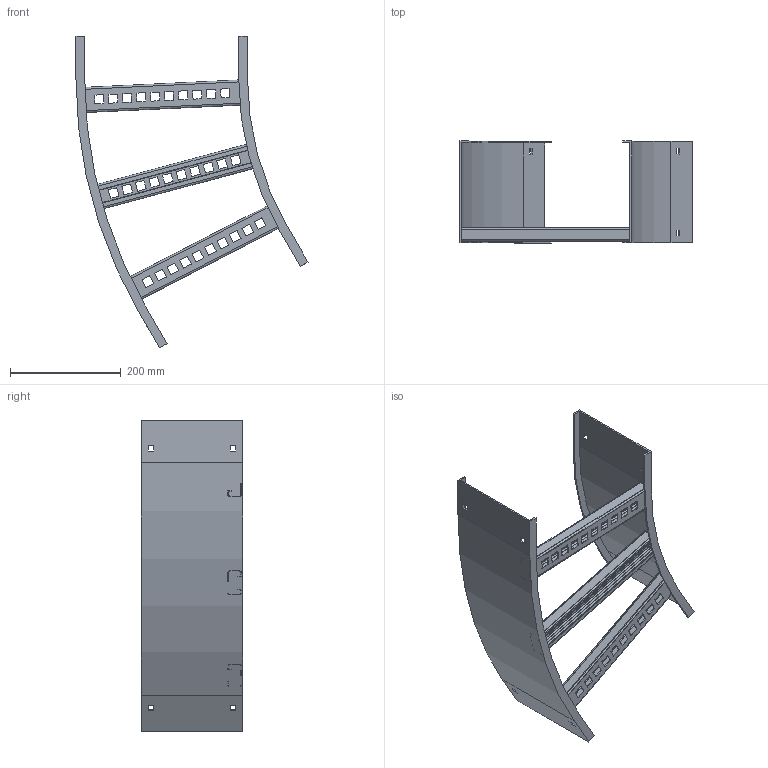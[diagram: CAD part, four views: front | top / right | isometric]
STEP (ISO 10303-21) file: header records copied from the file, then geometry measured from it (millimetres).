
FILE_DESCRIPTION((''),'2;1');
FILE_NAME('AUF712VHB3024_ASM','2010-01-28T',('erouzier'),(''),'PRO/ENGINEER BY PARAMETRIC TECHNOLOGY CORPORATION, 2008510','PRO/ENGINEER BY PARAMETRIC TECHNOLOGY CORPORATION, 2008510','');
FILE_SCHEMA(('CONFIG_CONTROL_DESIGN'));
Length unit declared in the file: inch
Products named in the file (4): CDS001322-7-30-21-I; CDS001322-7-30-33-O; CDS002159L12-P; AUF712VHB3024_ASM
Assembly tree (5 placements, depth 2):
  AUF712VHB3024_ASM
    CDS001322-7-30-21-I
    CDS001322-7-30-33-O
    CDS002159L12-P  x3
Bounding box: 419.95 x 183.9 x 564.09 mm (x, y, z)
Volume: 718227.1 mm3; surface area: 641963 mm2
Topology: 5 solids, 5 shells, 398 faces, 1164 edges, 776 vertices
Faces by surface type: plane 237, cylinder 161
Entity records: 6062 total; most frequent: CARTESIAN_POINT 1047, ORIENTED_EDGE 1032, DIRECTION 1008, EDGE_CURVE 516, VECTOR 398, LINE 398, VERTEX_POINT 344, AXIS2_PLACEMENT_3D 305
